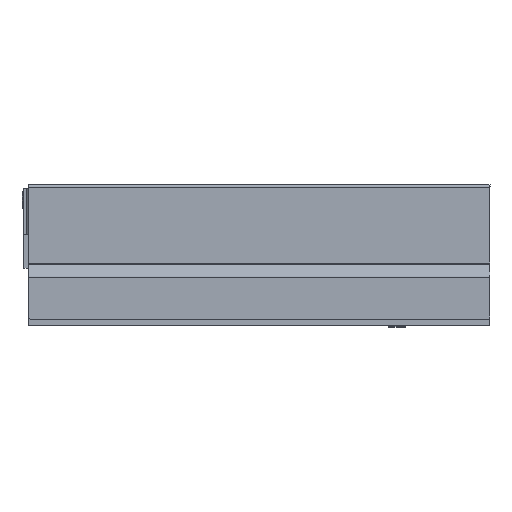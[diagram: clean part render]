
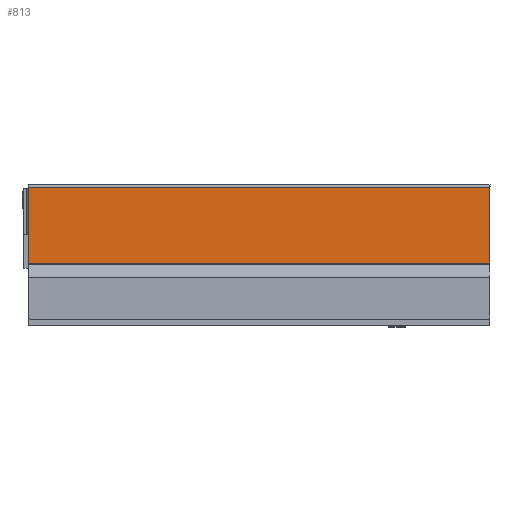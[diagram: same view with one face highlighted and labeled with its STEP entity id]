
A CAD part, left-side view. The second image highlights one B-rep face of the part: STEP entity #813.
In plain terms, the highlighted planar face has unit normal (-1, 0, 0).
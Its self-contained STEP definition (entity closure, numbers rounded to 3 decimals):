
#26 = AXIS2_PLACEMENT_3D ( 'NONE', #1483, #1484, #1485 ) ;
#171 = EDGE_CURVE ( 'NONE', #620, #714, #1635, .T. ) ;
#217 = EDGE_CURVE ( 'NONE', #532, #540, #2199, .T. ) ;
#247 = EDGE_CURVE ( 'NONE', #714, #540, #2226, .T. ) ;
#248 = EDGE_CURVE ( 'NONE', #620, #532, #2223, .T. ) ;
#532 = VERTEX_POINT ( 'NONE', #1342 ) ;
#540 = VERTEX_POINT ( 'NONE', #1347 ) ;
#620 = VERTEX_POINT ( 'NONE', #1381 ) ;
#714 = VERTEX_POINT ( 'NONE', #1419 ) ;
#813 = ADVANCED_FACE ( 'NONE', ( #2128 ), #1482, .T. ) ;
#1070 = CARTESIAN_POINT ( 'NONE',  ( 6.5, 144.577, 34.728 ) ) ;
#1071 = DIRECTION ( 'NONE',  ( 0., -1., 0. ) ) ;
#1168 = CARTESIAN_POINT ( 'NONE',  ( 6.5, 144.577, 100. ) ) ;
#1169 = DIRECTION ( 'NONE',  ( 0., -1., 0. ) ) ;
#1238 = CARTESIAN_POINT ( 'NONE',  ( 6.5, 0., 34.728 ) ) ;
#1239 = DIRECTION ( 'NONE',  ( 0., 0., 1. ) ) ;
#1240 = CARTESIAN_POINT ( 'NONE',  ( 6.5, 397., 34.728 ) ) ;
#1241 = DIRECTION ( 'NONE',  ( 0., 0., 1. ) ) ;
#1342 = CARTESIAN_POINT ( 'NONE',  ( 6.5, 397., 100. ) ) ;
#1347 = CARTESIAN_POINT ( 'NONE',  ( 6.5, 0., 100. ) ) ;
#1381 = CARTESIAN_POINT ( 'NONE',  ( 6.5, 397., 34.728 ) ) ;
#1419 = CARTESIAN_POINT ( 'NONE',  ( 6.5, 0., 34.728 ) ) ;
#1482 = PLANE ( 'NONE',  #26 ) ;
#1483 = CARTESIAN_POINT ( 'NONE',  ( 6.5, 144.577, 34.728 ) ) ;
#1484 = DIRECTION ( 'NONE',  ( -1., 0., 0. ) ) ;
#1485 = DIRECTION ( 'NONE',  ( 0., 1., 0. ) ) ;
#1634 = VECTOR ( 'NONE', #1071, 1000. ) ;
#1635 = LINE ( 'NONE', #1070, #1634 ) ;
#1953 = ORIENTED_EDGE ( 'NONE', *, *, #171, .T. ) ;
#1954 = ORIENTED_EDGE ( 'NONE', *, *, #247, .T. ) ;
#1955 = ORIENTED_EDGE ( 'NONE', *, *, #217, .F. ) ;
#1956 = ORIENTED_EDGE ( 'NONE', *, *, #248, .F. ) ;
#2020 = EDGE_LOOP ( 'NONE', ( #1953, #1954, #1955, #1956 ) ) ;
#2128 = FACE_OUTER_BOUND ( 'NONE', #2020, .T. ) ;
#2197 = VECTOR ( 'NONE', #1169, 1000. ) ;
#2199 = LINE ( 'NONE', #1168, #2197 ) ;
#2222 = VECTOR ( 'NONE', #1241, 1000. ) ;
#2223 = LINE ( 'NONE', #1240, #2222 ) ;
#2224 = VECTOR ( 'NONE', #1239, 1000. ) ;
#2226 = LINE ( 'NONE', #1238, #2224 ) ;
